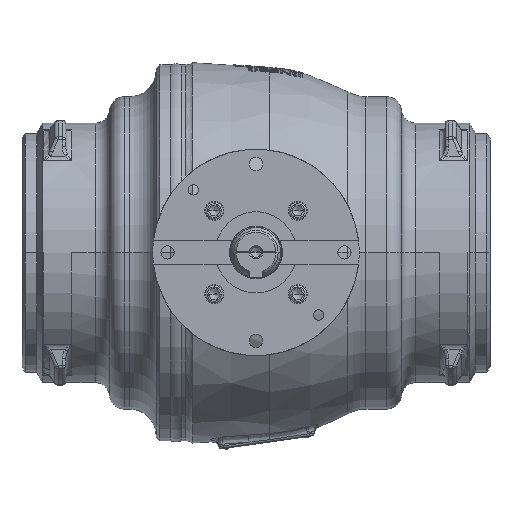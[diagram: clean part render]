
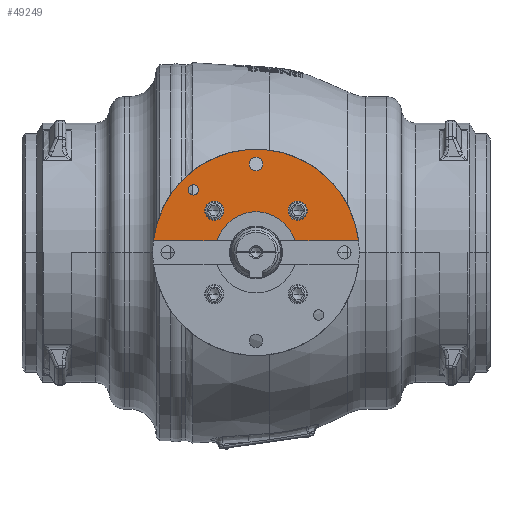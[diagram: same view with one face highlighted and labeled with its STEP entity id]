
A CAD part, top view. The second image highlights one B-rep face of the part: STEP entity #49249.
In plain terms, the highlighted planar face has unit normal (0, 0, 1).
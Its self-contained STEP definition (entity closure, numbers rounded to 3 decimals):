
#4594=DIRECTION('',(-1.,0.,0.));
#4595=VECTOR('',#4594,86.357);
#4596=CARTESIAN_POINT('',(139.083,16.,352.));
#4597=LINE('',#4596,#4595);
#4598=DIRECTION('',(-1.,0.,0.));
#4599=VECTOR('',#4598,86.357);
#4600=CARTESIAN_POINT('',(-52.726,16.,352.));
#4601=LINE('',#4600,#4599);
#4602=CARTESIAN_POINT('',(0.,0.,352.));
#4603=DIRECTION('',(0.,0.,1.));
#4604=DIRECTION('',(0.993,0.114,0.));
#4605=AXIS2_PLACEMENT_3D('',#4602,#4603,#4604);
#4607=CARTESIAN_POINT('',(-56.569,56.569,352.));
#4608=DIRECTION('',(0.,0.,-1.));
#4609=DIRECTION('',(1.,0.,0.));
#4610=AXIS2_PLACEMENT_3D('',#4607,#4608,#4609);
#4612=CARTESIAN_POINT('',(-56.569,56.569,352.));
#4613=DIRECTION('',(0.,0.,-1.));
#4614=DIRECTION('',(-1.,0.,0.));
#4615=AXIS2_PLACEMENT_3D('',#4612,#4613,#4614);
#4617=CARTESIAN_POINT('',(56.569,56.569,352.));
#4618=DIRECTION('',(0.,0.,-1.));
#4619=DIRECTION('',(1.,0.,0.));
#4620=AXIS2_PLACEMENT_3D('',#4617,#4618,#4619);
#4622=CARTESIAN_POINT('',(56.569,56.569,352.));
#4623=DIRECTION('',(0.,0.,-1.));
#4624=DIRECTION('',(-1.,0.,0.));
#4625=AXIS2_PLACEMENT_3D('',#4622,#4623,#4624);
#4627=CARTESIAN_POINT('',(0.,120.,352.));
#4628=DIRECTION('',(0.,0.,1.));
#4629=DIRECTION('',(-1.,0.,0.));
#4630=AXIS2_PLACEMENT_3D('',#4627,#4628,#4629);
#4632=CARTESIAN_POINT('',(0.,120.,352.));
#4633=DIRECTION('',(0.,0.,1.));
#4634=DIRECTION('',(1.,0.,0.));
#4635=AXIS2_PLACEMENT_3D('',#4632,#4633,#4634);
#4637=CARTESIAN_POINT('',(-84.853,84.853,352.));
#4638=DIRECTION('',(0.,0.,1.));
#4639=DIRECTION('',(-1.,0.,0.));
#4640=AXIS2_PLACEMENT_3D('',#4637,#4638,#4639);
#4642=CARTESIAN_POINT('',(-84.853,84.853,352.));
#4643=DIRECTION('',(0.,0.,1.));
#4644=DIRECTION('',(1.,0.,0.));
#4645=AXIS2_PLACEMENT_3D('',#4642,#4643,#4644);
#4647=CARTESIAN_POINT('',(0.,0.,352.));
#4648=DIRECTION('',(0.,0.,1.));
#4649=DIRECTION('',(0.957,0.29,0.));
#4650=AXIS2_PLACEMENT_3D('',#4647,#4648,#4649);
#31259=CARTESIAN_POINT('',(139.083,16.,352.));
#31260=CARTESIAN_POINT('',(52.726,16.,352.));
#31261=VERTEX_POINT('',#31259);
#31262=VERTEX_POINT('',#31260);
#31263=CARTESIAN_POINT('',(-52.726,16.,352.));
#31264=CARTESIAN_POINT('',(-139.083,16.,352.));
#31265=VERTEX_POINT('',#31263);
#31266=VERTEX_POINT('',#31264);
#31303=CARTESIAN_POINT('',(69.569,56.569,352.));
#31304=CARTESIAN_POINT('',(43.569,56.569,352.));
#31305=VERTEX_POINT('',#31303);
#31306=VERTEX_POINT('',#31304);
#31311=CARTESIAN_POINT('',(-43.569,56.569,352.));
#31312=CARTESIAN_POINT('',(-69.569,56.569,352.));
#31313=VERTEX_POINT('',#31311);
#31314=VERTEX_POINT('',#31312);
#31391=CARTESIAN_POINT('',(-9.,120.,352.));
#31392=CARTESIAN_POINT('',(9.,120.,352.));
#31393=VERTEX_POINT('',#31391);
#31394=VERTEX_POINT('',#31392);
#31399=CARTESIAN_POINT('',(-91.853,84.853,352.));
#31400=CARTESIAN_POINT('',(-77.853,84.853,352.));
#31401=VERTEX_POINT('',#31399);
#31402=VERTEX_POINT('',#31400);
#49211=CARTESIAN_POINT('',(0.,0.,352.));
#49212=DIRECTION('',(0.,0.,-1.));
#49213=DIRECTION('',(-1.,0.,0.));
#49214=AXIS2_PLACEMENT_3D('',#49211,#49212,#49213);
#49215=PLANE('',#49214);
#49216=ORIENTED_EDGE('',*,*,#49198,.T.);
#49218=ORIENTED_EDGE('',*,*,#49217,.T.);
#49220=ORIENTED_EDGE('',*,*,#49219,.T.);
#49222=ORIENTED_EDGE('',*,*,#49221,.F.);
#49223=EDGE_LOOP('',(#49216,#49218,#49220,#49222));
#49224=FACE_OUTER_BOUND('',#49223,.F.);
#49226=ORIENTED_EDGE('',*,*,#49225,.F.);
#49228=ORIENTED_EDGE('',*,*,#49227,.F.);
#49229=EDGE_LOOP('',(#49226,#49228));
#49230=FACE_BOUND('',#49229,.F.);
#49232=ORIENTED_EDGE('',*,*,#49231,.F.);
#49234=ORIENTED_EDGE('',*,*,#49233,.F.);
#49235=EDGE_LOOP('',(#49232,#49234));
#49236=FACE_BOUND('',#49235,.F.);
#49238=ORIENTED_EDGE('',*,*,#49237,.T.);
#49240=ORIENTED_EDGE('',*,*,#49239,.T.);
#49241=EDGE_LOOP('',(#49238,#49240));
#49242=FACE_BOUND('',#49241,.F.);
#49244=ORIENTED_EDGE('',*,*,#49243,.T.);
#49246=ORIENTED_EDGE('',*,*,#49245,.T.);
#49247=EDGE_LOOP('',(#49244,#49246));
#49248=FACE_BOUND('',#49247,.F.);
#49249=ADVANCED_FACE('',(#49224,#49230,#49236,#49242,#49248),#49215,.F.);
#4606=CIRCLE('',#4605,140.);
#4611=CIRCLE('',#4610,13.);
#4616=CIRCLE('',#4615,13.);
#4621=CIRCLE('',#4620,13.);
#4626=CIRCLE('',#4625,13.);
#4631=CIRCLE('',#4630,9.);
#4636=CIRCLE('',#4635,9.);
#4641=CIRCLE('',#4640,7.);
#4646=CIRCLE('',#4645,7.);
#4651=CIRCLE('',#4650,55.1);
#49198=EDGE_CURVE('',#31261,#31262,#4597,.T.);
#49217=EDGE_CURVE('',#31262,#31265,#4651,.T.);
#49219=EDGE_CURVE('',#31265,#31266,#4601,.T.);
#49221=EDGE_CURVE('',#31261,#31266,#4606,.T.);
#49225=EDGE_CURVE('',#31313,#31314,#4611,.T.);
#49227=EDGE_CURVE('',#31314,#31313,#4616,.T.);
#49231=EDGE_CURVE('',#31305,#31306,#4621,.T.);
#49233=EDGE_CURVE('',#31306,#31305,#4626,.T.);
#49237=EDGE_CURVE('',#31393,#31394,#4631,.T.);
#49239=EDGE_CURVE('',#31394,#31393,#4636,.T.);
#49243=EDGE_CURVE('',#31401,#31402,#4641,.T.);
#49245=EDGE_CURVE('',#31402,#31401,#4646,.T.);
